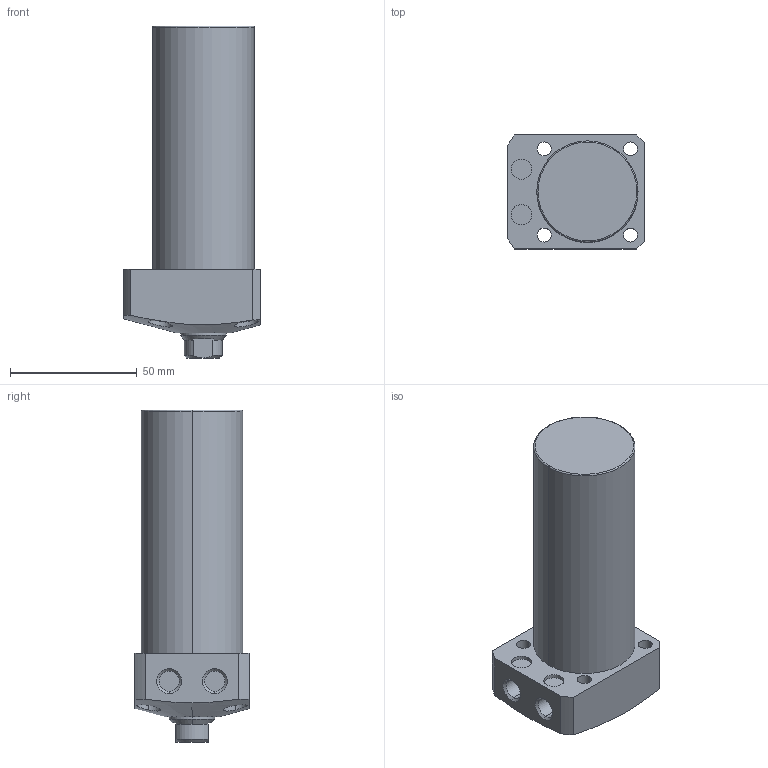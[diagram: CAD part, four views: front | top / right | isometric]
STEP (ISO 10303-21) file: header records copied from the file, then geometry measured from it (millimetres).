
FILE_DESCRIPTION (( 'STEP AP203' ), '1' );
FILE_NAME ('CLL-040CA-070.STEP', '2019-12-21T03:37:47', ( '' ), ( '' ), 'SwSTEP 2.0', 'SolidWorks 2015', '' );
FILE_SCHEMA (( 'CONFIG_CONTROL_DESIGN' ));
Length unit declared in the file: millimetre
Products named in the file (1): CLL-040CA-070
Bounding box: 54 x 45 x 131 mm (x, y, z)
Volume: 171075.5 mm3; surface area: 24166 mm2
Topology: 1 solids, 1 shells, 74 faces, 170 edges, 107 vertices
Faces by surface type: cylinder 35, plane 22, cone 15, torus 2
Entity records: 2505 total; most frequent: CARTESIAN_POINT 718, DIRECTION 374, ORIENTED_EDGE 336, EDGE_CURVE 168, AXIS2_PLACEMENT_3D 155, VERTEX_POINT 107, EDGE_LOOP 93, CIRCLE 80
